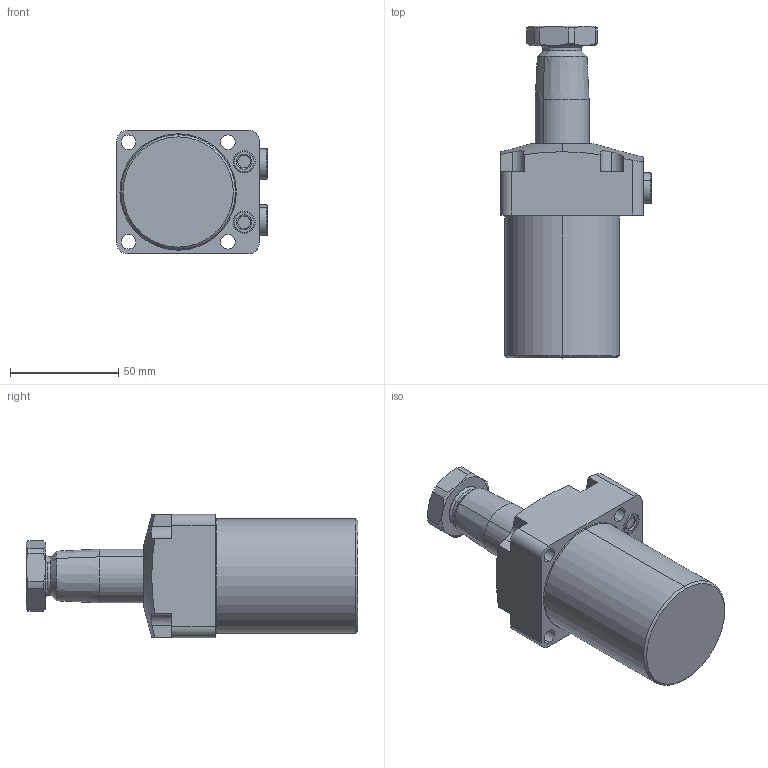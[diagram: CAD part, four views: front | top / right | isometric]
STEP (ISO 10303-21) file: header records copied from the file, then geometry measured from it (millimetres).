
FILE_DESCRIPTION(/* description */ (''),/* implementation_level */ '2;1');
FILE_NAME(/* name */ 'TRC06-RN45.stp',/* time_stamp */ '2025-01-04T09:50:02+08:00',/* author */ (''),/* organization */ (''),/* preprocessor_version */ 'ST-DEVELOPER v16.7',/* originating_system */ 'SIEMENS PLM Software NX 12.0',/* authorisation */ '');
FILE_SCHEMA (('AUTOMOTIVE_DESIGN { 1 0 10303 214 3 1 1 1 }'));
Length unit declared in the file: millimetre
Products named in the file (5): TRC06-RN45-04; TRC06-RN45-03; TRC06-RN45-02; TRC06-RN45-01; TRC06-RN45_stp
Assembly tree (5 placements, depth 2):
  TRC06-RN45_stp
    TRC06-RN45-01
    TRC06-RN45-02
    TRC06-RN45-03
    TRC06-RN45-04  x2
Bounding box: 69.8 x 153.4 x 57 mm (x, y, z)
Volume: 270423.5 mm3; surface area: 38375.2 mm2
Topology: 5 solids, 7 shells, 203 faces, 465 edges, 288 vertices
Faces by surface type: cylinder 73, plane 67, cone 40, torus 22, sphere 1
Entity records: 5410 total; most frequent: CARTESIAN_POINT 1086, DIRECTION 938, ORIENTED_EDGE 836, EDGE_CURVE 418, AXIS2_PLACEMENT_3D 386, VERTEX_POINT 260, EDGE_LOOP 206, CIRCLE 199
